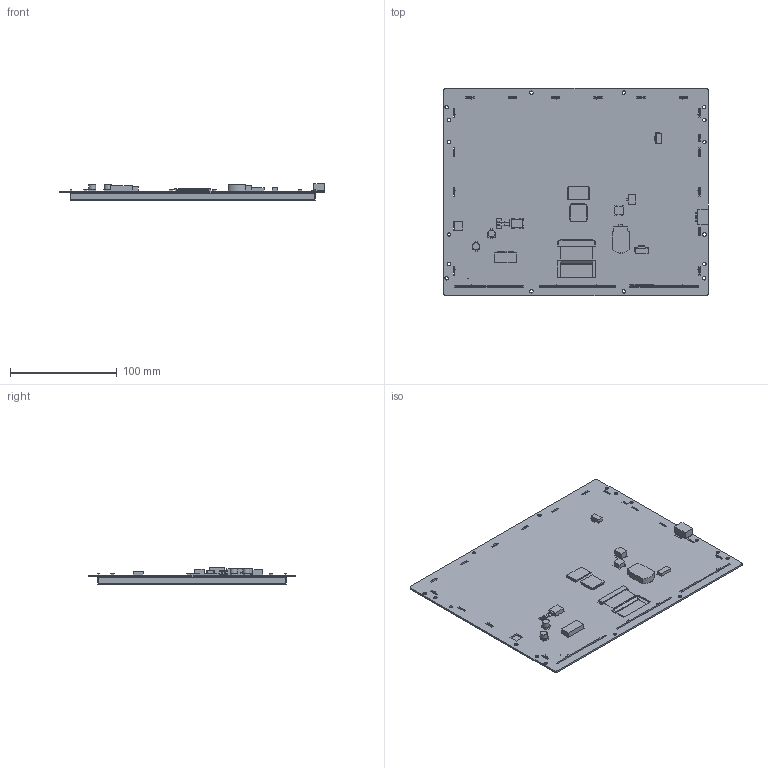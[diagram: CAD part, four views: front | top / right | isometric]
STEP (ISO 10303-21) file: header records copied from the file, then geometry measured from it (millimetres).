
FILE_DESCRIPTION(/* description */ (''),/* implementation_level */ '2;1');
FILE_NAME(/* name */ '3D_SDWe104T87N.stp',/* time_stamp */ '2020-09-25T15:24:49+08:00',/* author */ (''),/* organization */ (''),/* preprocessor_version */ 'ST-DEVELOPER v15',/* originating_system */ 'SIEMENS PLM Software NX 8.5',/* authorisation */ '');
FILE_SCHEMA (('AP203_CONFIGURATION_CONTROLLED_3D_DESIGN_OF_MECHANICAL_PARTS_AND_ASSEMBLIES_MIM_LF { 1 0 10303 403 2 1 2}'));
Length unit declared in the file: millimetre
Products named in the file (1): SDWe104T87
Bounding box: 247.8 x 193.7 x 15.81 mm (x, y, z)
Volume: 318372.6 mm3; surface area: 285704.6 mm2
Topology: 352 solids, 352 shells, 2328 faces, 4870 edges, 3246 vertices
Faces by surface type: plane 2209, cylinder 105, torus 8, extrusion 6
Full cylindrical faces by diameter (mm): 0.406 x1, 0.711 x1, 1 x8, 3.2 x16, 6.565 x2
Entity records: 64801 total; most frequent: CARTESIAN_POINT 10763, DIRECTION 9698, ORIENTED_EDGE 9664, EDGE_CURVE 4832, VECTOR 4588, LINE 4582, VERTEX_POINT 3242, AXIS2_PLACEMENT_3D 2555
